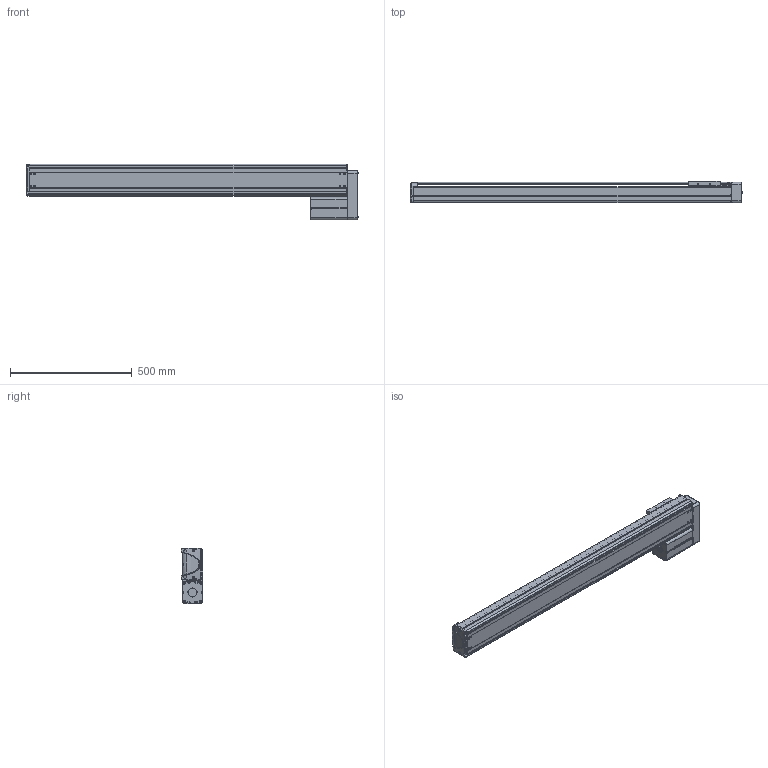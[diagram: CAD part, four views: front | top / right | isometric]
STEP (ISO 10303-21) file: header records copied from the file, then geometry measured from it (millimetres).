
FILE_DESCRIPTION((''),'2;1');
FILE_NAME('BE30E-UL-M_N-B0_IGS_PRT','2017-06-17T',(' '),(''),'PRO/ENGINEER BY PARAMETRIC TECHNOLOGY CORPORATION, 2015030','PRO/ENGINEER BY PARAMETRIC TECHNOLOGY CORPORATION, 2015030','');
FILE_SCHEMA(('CONFIG_CONTROL_DESIGN'));
Length unit declared in the file: millimetre
Products named in the file (1): BE30E-UL-M_N-B0_IGS_PRT
Bounding box: 1361.9 x 89.8 x 227 mm (x, y, z)
Volume: 4395696.5 mm3; surface area: 1846886.7 mm2
Topology: 2 solids, 133 shells, 2077 faces, 5608 edges, 3648 vertices
Faces by surface type: plane 1000, cylinder 887, cone 101, torus 37, bspline 28, sphere 24
Entity records: 67402 total; most frequent: CARTESIAN_POINT 14313, DIRECTION 11221, ORIENTED_EDGE 10641, EDGE_CURVE 5570, AXIS2_PLACEMENT_3D 3974, VERTEX_POINT 3648, VECTOR 3273, LINE 3273
